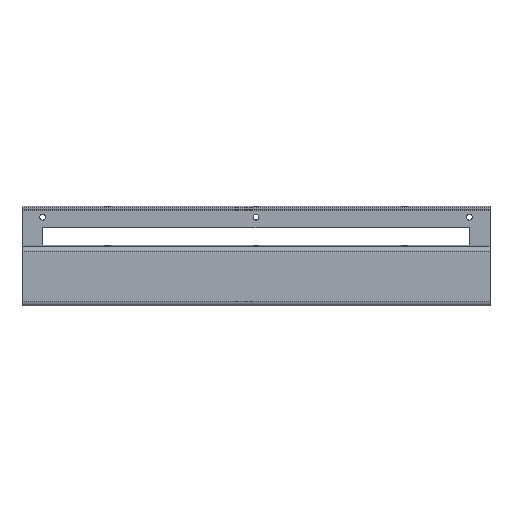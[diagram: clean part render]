
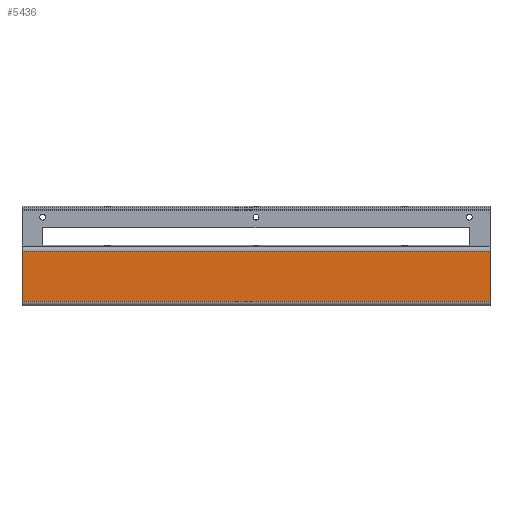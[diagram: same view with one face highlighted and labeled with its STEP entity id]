
A CAD part, front view. The second image highlights one B-rep face of the part: STEP entity #5436.
In plain terms, the highlighted planar face has unit normal (0, -1, 0).
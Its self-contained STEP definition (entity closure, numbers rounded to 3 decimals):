
#73 = PLANE('',#74);
#74 = AXIS2_PLACEMENT_3D('',#75,#76,#77);
#75 = CARTESIAN_POINT('',(348.,124.376,13.07));
#76 = DIRECTION('',(1.,0.,0.));
#77 = DIRECTION('',(-0.,0.,1.));
#132 = PLANE('',#133);
#133 = AXIS2_PLACEMENT_3D('',#134,#135,#136);
#134 = CARTESIAN_POINT('',(8.,124.376,13.07));
#135 = DIRECTION('',(1.,0.,0.));
#136 = DIRECTION('',(-0.,0.,1.));
#898 = VERTEX_POINT('',#899);
#899 = CARTESIAN_POINT('',(8.,0.,39.835));
#914 = CYLINDRICAL_SURFACE('',#915,3.5);
#915 = AXIS2_PLACEMENT_3D('',#916,#917,#918);
#916 = CARTESIAN_POINT('',(8.,3.5,39.835));
#917 = DIRECTION('',(-1.,-0.,0.));
#918 = DIRECTION('',(0.,0.,1.));
#926 = EDGE_CURVE('',#898,#927,#929,.T.);
#927 = VERTEX_POINT('',#928);
#928 = CARTESIAN_POINT('',(8.,0.,3.5));
#929 = SURFACE_CURVE('',#930,(#934,#941),.PCURVE_S1.);
#930 = LINE('',#931,#932);
#931 = CARTESIAN_POINT('',(8.,0.,42.25));
#932 = VECTOR('',#933,1.);
#933 = DIRECTION('',(0.,-0.,-1.));
#934 = PCURVE('',#132,#935);
#935 = DEFINITIONAL_REPRESENTATION('',(#936),#940);
#936 = LINE('',#937,#938);
#937 = CARTESIAN_POINT('',(29.18,124.376));
#938 = VECTOR('',#939,1.);
#939 = DIRECTION('',(-1.,0.));
#940 = ( GEOMETRIC_REPRESENTATION_CONTEXT(2) 
PARAMETRIC_REPRESENTATION_CONTEXT() REPRESENTATION_CONTEXT('2D SPACE',''
  ) );
#941 = PCURVE('',#942,#947);
#942 = PLANE('',#943);
#943 = AXIS2_PLACEMENT_3D('',#944,#945,#946);
#944 = CARTESIAN_POINT('',(8.,0.,39.835));
#945 = DIRECTION('',(0.,1.,-0.));
#946 = DIRECTION('',(0.,-0.,-1.));
#947 = DEFINITIONAL_REPRESENTATION('',(#948),#952);
#948 = LINE('',#949,#950);
#949 = CARTESIAN_POINT('',(-2.415,0.));
#950 = VECTOR('',#951,1.);
#951 = DIRECTION('',(1.,0.));
#952 = ( GEOMETRIC_REPRESENTATION_CONTEXT(2) 
PARAMETRIC_REPRESENTATION_CONTEXT() REPRESENTATION_CONTEXT('2D SPACE',''
  ) );
#971 = CYLINDRICAL_SURFACE('',#972,3.5);
#972 = AXIS2_PLACEMENT_3D('',#973,#974,#975);
#973 = CARTESIAN_POINT('',(8.,3.5,3.5));
#974 = DIRECTION('',(-1.,-0.,0.));
#975 = DIRECTION('',(0.,0.,1.));
#1502 = VERTEX_POINT('',#1503);
#1503 = CARTESIAN_POINT('',(348.,0.,39.835));
#1525 = EDGE_CURVE('',#1502,#1526,#1528,.T.);
#1526 = VERTEX_POINT('',#1527);
#1527 = CARTESIAN_POINT('',(348.,0.,3.5));
#1528 = SURFACE_CURVE('',#1529,(#1533,#1540),.PCURVE_S1.);
#1529 = LINE('',#1530,#1531);
#1530 = CARTESIAN_POINT('',(348.,0.,42.25));
#1531 = VECTOR('',#1532,1.);
#1532 = DIRECTION('',(0.,-0.,-1.));
#1533 = PCURVE('',#73,#1534);
#1534 = DEFINITIONAL_REPRESENTATION('',(#1535),#1539);
#1535 = LINE('',#1536,#1537);
#1536 = CARTESIAN_POINT('',(29.18,124.376));
#1537 = VECTOR('',#1538,1.);
#1538 = DIRECTION('',(-1.,0.));
#1539 = ( GEOMETRIC_REPRESENTATION_CONTEXT(2) 
PARAMETRIC_REPRESENTATION_CONTEXT() REPRESENTATION_CONTEXT('2D SPACE',''
  ) );
#1540 = PCURVE('',#942,#1541);
#1541 = DEFINITIONAL_REPRESENTATION('',(#1542),#1546);
#1542 = LINE('',#1543,#1544);
#1543 = CARTESIAN_POINT('',(-2.415,-340.));
#1544 = VECTOR('',#1545,1.);
#1545 = DIRECTION('',(1.,0.));
#1546 = ( GEOMETRIC_REPRESENTATION_CONTEXT(2) 
PARAMETRIC_REPRESENTATION_CONTEXT() REPRESENTATION_CONTEXT('2D SPACE',''
  ) );
#5364 = EDGE_CURVE('',#927,#1526,#5365,.T.);
#5365 = SURFACE_CURVE('',#5366,(#5370,#5377),.PCURVE_S1.);
#5366 = LINE('',#5367,#5368);
#5367 = CARTESIAN_POINT('',(8.,0.,3.5));
#5368 = VECTOR('',#5369,1.);
#5369 = DIRECTION('',(1.,0.,0.));
#5370 = PCURVE('',#971,#5371);
#5371 = DEFINITIONAL_REPRESENTATION('',(#5372),#5376);
#5372 = LINE('',#5373,#5374);
#5373 = CARTESIAN_POINT('',(-1.571,0.));
#5374 = VECTOR('',#5375,1.);
#5375 = DIRECTION('',(-0.,-1.));
#5376 = ( GEOMETRIC_REPRESENTATION_CONTEXT(2) 
PARAMETRIC_REPRESENTATION_CONTEXT() REPRESENTATION_CONTEXT('2D SPACE',''
  ) );
#5377 = PCURVE('',#942,#5378);
#5378 = DEFINITIONAL_REPRESENTATION('',(#5379),#5383);
#5379 = LINE('',#5380,#5381);
#5380 = CARTESIAN_POINT('',(36.335,0.));
#5381 = VECTOR('',#5382,1.);
#5382 = DIRECTION('',(0.,-1.));
#5383 = ( GEOMETRIC_REPRESENTATION_CONTEXT(2) 
PARAMETRIC_REPRESENTATION_CONTEXT() REPRESENTATION_CONTEXT('2D SPACE',''
  ) );
#5436 = ADVANCED_FACE('',(#5437),#942,.F.);
#5437 = FACE_BOUND('',#5438,.F.);
#5438 = EDGE_LOOP('',(#5439,#5460,#5461,#5462));
#5439 = ORIENTED_EDGE('',*,*,#5440,.T.);
#5440 = EDGE_CURVE('',#898,#1502,#5441,.T.);
#5441 = SURFACE_CURVE('',#5442,(#5446,#5453),.PCURVE_S1.);
#5442 = LINE('',#5443,#5444);
#5443 = CARTESIAN_POINT('',(8.,0.,39.835));
#5444 = VECTOR('',#5445,1.);
#5445 = DIRECTION('',(1.,0.,0.));
#5446 = PCURVE('',#942,#5447);
#5447 = DEFINITIONAL_REPRESENTATION('',(#5448),#5452);
#5448 = LINE('',#5449,#5450);
#5449 = CARTESIAN_POINT('',(0.,0.));
#5450 = VECTOR('',#5451,1.);
#5451 = DIRECTION('',(0.,-1.));
#5452 = ( GEOMETRIC_REPRESENTATION_CONTEXT(2) 
PARAMETRIC_REPRESENTATION_CONTEXT() REPRESENTATION_CONTEXT('2D SPACE',''
  ) );
#5453 = PCURVE('',#914,#5454);
#5454 = DEFINITIONAL_REPRESENTATION('',(#5455),#5459);
#5455 = LINE('',#5456,#5457);
#5456 = CARTESIAN_POINT('',(-7.854,0.));
#5457 = VECTOR('',#5458,1.);
#5458 = DIRECTION('',(-0.,-1.));
#5459 = ( GEOMETRIC_REPRESENTATION_CONTEXT(2) 
PARAMETRIC_REPRESENTATION_CONTEXT() REPRESENTATION_CONTEXT('2D SPACE',''
  ) );
#5460 = ORIENTED_EDGE('',*,*,#1525,.T.);
#5461 = ORIENTED_EDGE('',*,*,#5364,.F.);
#5462 = ORIENTED_EDGE('',*,*,#926,.F.);
